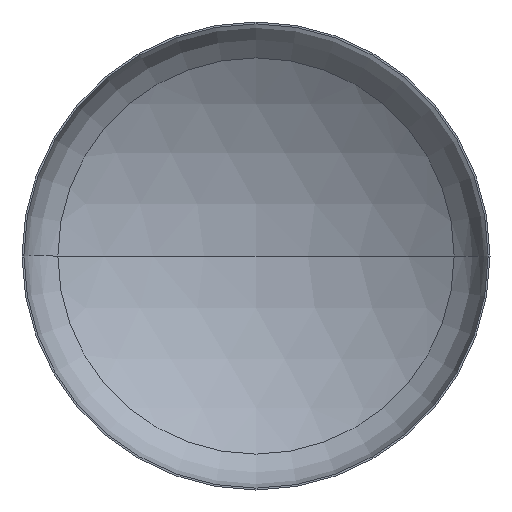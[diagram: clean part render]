
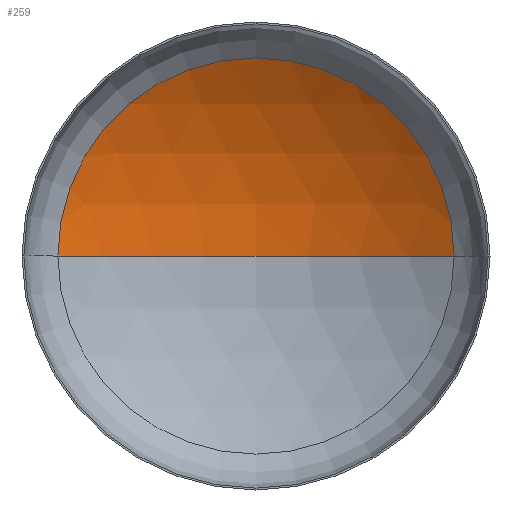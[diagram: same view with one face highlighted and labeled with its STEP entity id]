
A CAD part, front view. The second image highlights one B-rep face of the part: STEP entity #259.
In plain terms, the highlighted spherical face has radius 5600 mm.
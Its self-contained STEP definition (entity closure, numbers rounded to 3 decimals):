
#5 = ORIENTED_EDGE ( 'NONE', *, *, #160, .T. ) ;
#18 = ORIENTED_EDGE ( 'NONE', *, *, #162, .T. ) ;
#25 = VERTEX_POINT ( 'NONE', #228 ) ;
#34 = DIRECTION ( 'NONE',  ( 0., 0., -1. ) ) ;
#46 = AXIS2_PLACEMENT_3D ( 'NONE', #375, #34, #383 ) ;
#48 = ORIENTED_EDGE ( 'NONE', *, *, #167, .F. ) ;
#64 = FACE_OUTER_BOUND ( 'NONE', #101, .T. ) ;
#68 = VERTEX_POINT ( 'NONE', #240 ) ;
#101 = EDGE_LOOP ( 'NONE', ( #48, #18, #5 ) ) ;
#113 = AXIS2_PLACEMENT_3D ( 'NONE', #322, #385, #401 ) ;
#114 = AXIS2_PLACEMENT_3D ( 'NONE', #180, #183, #136 ) ;
#117 = AXIS2_PLACEMENT_3D ( 'NONE', #201, #194, #192 ) ;
#136 = DIRECTION ( 'NONE',  ( -1., 0., 0. ) ) ;
#160 = EDGE_CURVE ( 'NONE', #182, #25, #392, .T. ) ;
#162 = EDGE_CURVE ( 'NONE', #68, #182, #338, .T. ) ;
#167 = EDGE_CURVE ( 'NONE', #68, #25, #211, .T. ) ;
#180 = CARTESIAN_POINT ( 'NONE',  ( 0., -3750.197, 0. ) ) ;
#182 = VERTEX_POINT ( 'NONE', #234 ) ;
#183 = DIRECTION ( 'NONE',  ( 0., 0., -1. ) ) ;
#192 = DIRECTION ( 'NONE',  ( 1., 0., 0. ) ) ;
#194 = DIRECTION ( 'NONE',  ( 0., -1., 0. ) ) ;
#201 = CARTESIAN_POINT ( 'NONE',  ( 0., 1001.375, 0. ) ) ;
#202 = SPHERICAL_SURFACE ( 'NONE', #46, 5600. ) ;
#211 = CIRCLE ( 'NONE', #113, 5600. ) ;
#228 = CARTESIAN_POINT ( 'NONE',  ( -2963.54, 1001.375, 0. ) ) ;
#234 = CARTESIAN_POINT ( 'NONE',  ( 2963.54, 1001.375, 0. ) ) ;
#240 = CARTESIAN_POINT ( 'NONE',  ( 0., 1849.803, 0. ) ) ;
#259 = ADVANCED_FACE ( 'NONE', ( #64 ), #202, .F. ) ;
#322 = CARTESIAN_POINT ( 'NONE',  ( 0., -3750.197, 0. ) ) ;
#338 = CIRCLE ( 'NONE', #114, 5600. ) ;
#375 = CARTESIAN_POINT ( 'NONE',  ( 0., -3750.197, 0. ) ) ;
#383 = DIRECTION ( 'NONE',  ( -1., 0., 0. ) ) ;
#385 = DIRECTION ( 'NONE',  ( 0., 0., 1. ) ) ;
#392 = CIRCLE ( 'NONE', #117, 2963.54 ) ;
#401 = DIRECTION ( 'NONE',  ( 1., 0., 0. ) ) ;
